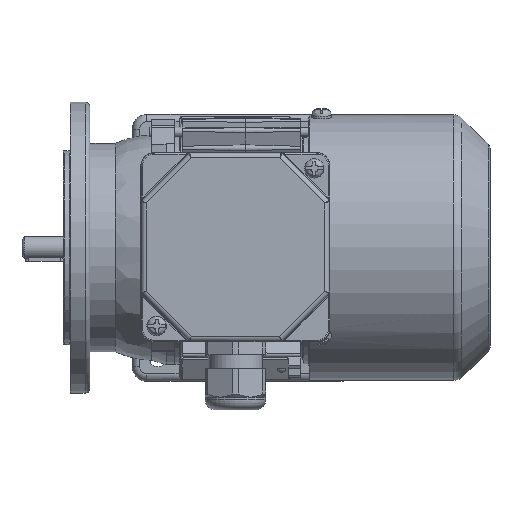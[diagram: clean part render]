
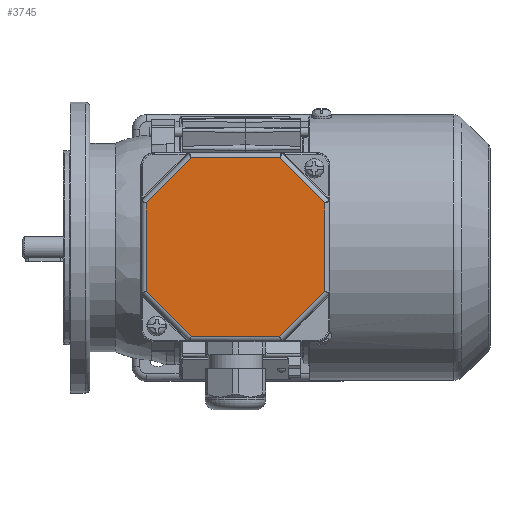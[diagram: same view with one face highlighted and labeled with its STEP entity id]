
A CAD part, top view. The second image highlights one B-rep face of the part: STEP entity #3745.
In plain terms, the highlighted planar face has unit normal (0, 0, 1).
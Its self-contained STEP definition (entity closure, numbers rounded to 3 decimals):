
#3745 = ADVANCED_FACE( '', ( #8324 ), #8325, .T. );
#8324 = FACE_OUTER_BOUND( '', #17015, .T. );
#8325 = PLANE( '', #17016 );
#17015 = EDGE_LOOP( '', ( #33623, #33624, #33625, #33626, #33627, #33628, #33629, #33630 ) );
#17016 = AXIS2_PLACEMENT_3D( '', #33631, #33632, #33633 );
#33623 = ORIENTED_EDGE( '', *, *, #46701, .T. );
#33624 = ORIENTED_EDGE( '', *, *, #46702, .T. );
#33625 = ORIENTED_EDGE( '', *, *, #46703, .T. );
#33626 = ORIENTED_EDGE( '', *, *, #46437, .T. );
#33627 = ORIENTED_EDGE( '', *, *, #46704, .T. );
#33628 = ORIENTED_EDGE( '', *, *, #46550, .T. );
#33629 = ORIENTED_EDGE( '', *, *, #46312, .T. );
#33630 = ORIENTED_EDGE( '', *, *, #46705, .T. );
#33631 = CARTESIAN_POINT( '', ( -39., 39., 12. ) );
#33632 = DIRECTION( '', ( 0., 0., 1. ) );
#33633 = DIRECTION( '', ( 1., 0., 0. ) );
#46312 = EDGE_CURVE( '', #54928, #54929, #54930, .F. );
#46437 = EDGE_CURVE( '', #55108, #50390, #55109, .T. );
#46550 = EDGE_CURVE( '', #55256, #54928, #55257, .T. );
#46701 = EDGE_CURVE( '', #55467, #52838, #55468, .F. );
#46702 = EDGE_CURVE( '', #52838, #55311, #55469, .T. );
#46703 = EDGE_CURVE( '', #55311, #55108, #55470, .F. );
#46704 = EDGE_CURVE( '', #50390, #55256, #55471, .F. );
#46705 = EDGE_CURVE( '', #54929, #55467, #55472, .T. );
#50390 = VERTEX_POINT( '', #60640 );
#52838 = VERTEX_POINT( '', #65499 );
#54928 = VERTEX_POINT( '', #70372 );
#54929 = VERTEX_POINT( '', #70373 );
#54930 = LINE( '', #70374, #70375 );
#55108 = VERTEX_POINT( '', #70643 );
#55109 = LINE( '', #70644, #70645 );
#55256 = VERTEX_POINT( '', #71213 );
#55257 = LINE( '', #71214, #71215 );
#55311 = VERTEX_POINT( '', #71374 );
#55467 = VERTEX_POINT( '', #71852 );
#55468 = LINE( '', #71853, #71854 );
#55469 = LINE( '', #71855, #71856 );
#55470 = LINE( '', #71857, #71858 );
#55471 = LINE( '', #71859, #71860 );
#55472 = LINE( '', #71861, #71862 );
#60640 = CARTESIAN_POINT( '', ( -36.825, 18.255, 12. ) );
#65499 = CARTESIAN_POINT( '', ( 36.825, 18.255, 12. ) );
#70372 = CARTESIAN_POINT( '', ( -18.255, -36.825, 12. ) );
#70373 = CARTESIAN_POINT( '', ( 18.255, -36.825, 12. ) );
#70374 = CARTESIAN_POINT( '', ( 19.069, -36.825, 12. ) );
#70375 = VECTOR( '', #83580, 1000. );
#70643 = CARTESIAN_POINT( '', ( -18.255, 36.825, 12. ) );
#70644 = CARTESIAN_POINT( '', ( -37.401, 17.679, 12. ) );
#70645 = VECTOR( '', #83776, 1000. );
#71213 = CARTESIAN_POINT( '', ( -36.825, -18.255, 12. ) );
#71214 = CARTESIAN_POINT( '', ( -17.679, -37.401, 12. ) );
#71215 = VECTOR( '', #83865, 1000. );
#71374 = CARTESIAN_POINT( '', ( 18.255, 36.825, 12. ) );
#71852 = CARTESIAN_POINT( '', ( 36.825, -18.255, 12. ) );
#71853 = CARTESIAN_POINT( '', ( 36.825, 19.069, 12. ) );
#71854 = VECTOR( '', #84022, 1000. );
#71855 = CARTESIAN_POINT( '', ( 17.679, 37.401, 12. ) );
#71856 = VECTOR( '', #84023, 1000. );
#71857 = CARTESIAN_POINT( '', ( -19.069, 36.825, 12. ) );
#71858 = VECTOR( '', #84024, 1000. );
#71859 = CARTESIAN_POINT( '', ( -36.825, -19.069, 12. ) );
#71860 = VECTOR( '', #84025, 1000. );
#71861 = CARTESIAN_POINT( '', ( 37.401, -17.679, 12. ) );
#71862 = VECTOR( '', #84026, 1000. );
#83580 = DIRECTION( '', ( -1., 0., 0. ) );
#83776 = DIRECTION( '', ( -0.707, -0.707, 0. ) );
#83865 = DIRECTION( '', ( 0.707, -0.707, 0. ) );
#84022 = DIRECTION( '', ( 0., -1., 0. ) );
#84023 = DIRECTION( '', ( -0.707, 0.707, 0. ) );
#84024 = DIRECTION( '', ( 1., 0., 0. ) );
#84025 = DIRECTION( '', ( 0., 1., 0. ) );
#84026 = DIRECTION( '', ( 0.707, 0.707, 0. ) );
